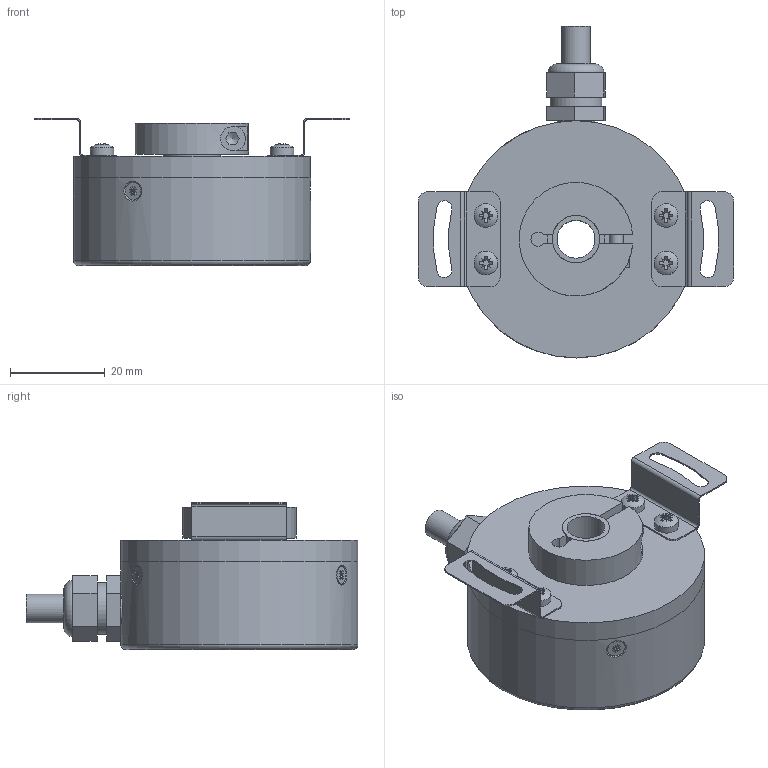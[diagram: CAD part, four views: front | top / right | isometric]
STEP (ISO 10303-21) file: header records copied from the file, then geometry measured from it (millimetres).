
FILE_DESCRIPTION(('STEP AP214'), '1');
FILE_NAME('SE50T8', '2025-02-07T07:03:42', (''), (''), 'C3D Converter', 'C3D Toolkit', '');
FILE_SCHEMA(('AUTOMOTIVE_DESIGN { 1 0 10303 214 3 1 1}'));
Length unit declared in the file: millimetre
Products named in the file (14): __1; Провод; Кабельный_ввод; Винт_M3.0 x 8.0; Винт_M3.0 x 4.0; Винт_M2.0 x 3.0; Фланец; Муфта; Корпус; Крышка
Assembly tree (15 placements, depth 2):
  __1
    Провод
    Кабельный_ввод
    Винт_M3.0 x 8.0
    Винт_M3.0 x 4.0
    Винт_M3.0 x 4.0
    Винт_M3.0 x 4.0
    Винт_M3.0 x 4.0
    Винт_M2.0 x 3.0  x2
    Винт_M2.0 x 3.0
    Фланец  x2
    Муфта
    Корпус
    Крышка
Bounding box: 66.5 x 69.98 x 31 mm (x, y, z)
Volume: 48043.6 mm3; surface area: 17857 mm2
Topology: 15 solids, 15 shells, 473 faces, 1188 edges, 771 vertices
Faces by surface type: plane 355, cylinder 105, cone 4, sphere 4, bspline 3, torus 2
Full cylindrical faces by diameter (mm): 1.4 x3, 1.6 x4, 2 x3, 2.2 x3, 2.55 x4, 2.6 x1, 2.995 x1, 3 x10, 3.8 x3, 5 x4, 5.5 x1, 6 x2, 8 x4, 10 x1, 10.85 x1, 12 x1, 50 x2
Entity records: 18127 total; most frequent: CARTESIAN_POINT 4779, DIRECTION 1925, ORIENTED_EDGE 1868, EDGE_CURVE 934, AXIS2_PLACEMENT_3D 671, VERTEX_POINT 639, LINE 583, VECTOR 583
